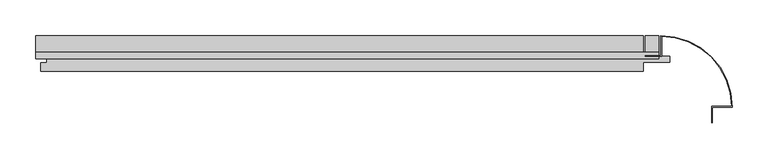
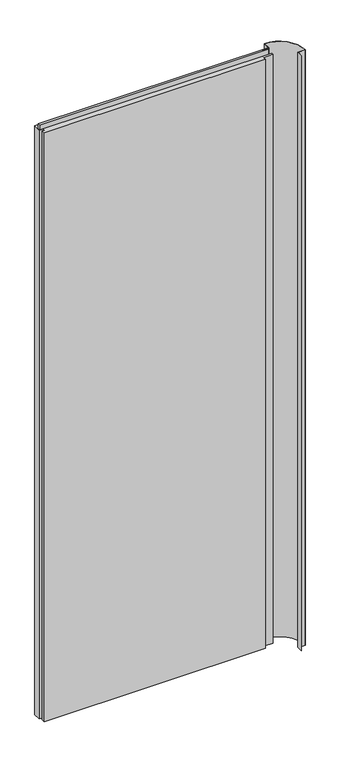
"""IFC4 building model written with IfcOpenShell, lengths in millimetres: plate geometry, Trimo_Qbiss Screen_Normal Panel-VERTICAL : HR - B."""

from ifc_helpers import new_model, si_unit, point, frame, frame_2d, origin, place, context, project, spatial, polyline, circle_curve, trimmed, segment, composite_curve, outline, extrude, source, transform, mapped, element, save


def plate_5f2f2af7(model_context):
    return source(origin(), model_context, "Body", "SweptSolid", [
        extrude(outline(polyline([(448.0, 97.0), (429.0, 97.0), (429.0, 126.0), (448.0, 126.0), (448.0, 97.0)])), frame((0.0, 0.0, 12.5), z_axis=(0.0, 0.0, 1.0), x_axis=(1.0, 0.0, 0.0)), (0.0, 0.0, 1.0), 2375.0),
        extrude(outline(polyline([(-425.0, 93.9), (-425.0, 102.6), (448.0, 102.6), (448.0, 93.9), (-425.0, 93.9)])), frame((0.0, 0.0, 2390.5), z_axis=(0.0, 0.0, 1.0), x_axis=(1.0, 0.0, 0.0)), (0.0, 0.0, 1.0), 19.0),
        extrude(outline(polyline([(426.0, 97.0), (463.5, 97.0), (463.5, 89.0), (426.0, 89.0), (426.0, 76.0), (-418.0, 76.0), (-418.0, 88.0), (-409.5, 88.0), (-409.5, 98.0), (-425.0, 98.0), (-425.0, 126.0), (426.0, 126.0), (426.0, 97.0)])), frame((0.0, 0.0, 12.5), z_axis=(0.0, 0.0, 1.0), x_axis=(1.0, 0.0, 0.0)), (0.0, 0.0, 1.0), 2375.0),
        extrude(outline(composite_curve([segment(polyline([(451.0, 97.8), (451.0, 126.0)]), True, "CONTINUOUS"), segment(trimmed(circle_curve(frame_2d((451.0, 26.0)), 100.0), [point((451.0, 126.0))], [point((551.0, 26.0))], False, "CARTESIAN"), True, "CONTINUOUS"), segment(polyline([(551.0, 26.0), (522.8, 26.0), (522.8, 4.0), (522.0, 4.0), (522.0, 26.8), (550.1967741, 26.8)]), True, "CONTINUOUS"), segment(trimmed(circle_curve(frame_2d((451.0, 26.0)), 99.2), [point((550.1967741, 26.8))], [point((451.8, 125.1967741))], True, "CARTESIAN"), True, "CONTINUOUS"), segment(polyline([(451.8, 125.1967741), (451.8, 97.0), (429.0, 97.0), (429.0, 97.8), (451.0, 97.8)]), True, "CONTINUOUS")], self_intersect=False)), frame((0.0, 0.0, 12.5), z_axis=(0.0, 0.0, 1.0), x_axis=(1.0, 0.0, 0.0)), (0.0, 0.0, 1.0), 2400.0),
    ])


if __name__ == "__main__":
    model = new_model("IFC4")
    model_context = context("Model", 3, world=origin())
    ifc_project = project(units=[si_unit("LENGTHUNIT", "METRE", prefix="MILLI")], contexts=[model_context])
    site = spatial("IfcSite", under=ifc_project)
    building = spatial("IfcBuilding", under=site)
    placement = place(None, origin())
    plate_shape = plate_5f2f2af7(model_context)
    element("IfcPlate", 1, ObjectType="Trimo_Qbiss Screen_Normal Panel-VERTICAL : HR - B", at=placement, inside=building, context=model_context, shape_type="MappedRepresentation", body=[
        mapped(plate_shape, transform((0.0, 0.0, 0.0), x_axis=(1.0, 0.0, 0.0), y_axis=(0.0, 1.0, 0.0), z_axis=(0.0, 0.0, 1.0))),
    ])
    save(model, "model.ifc")
